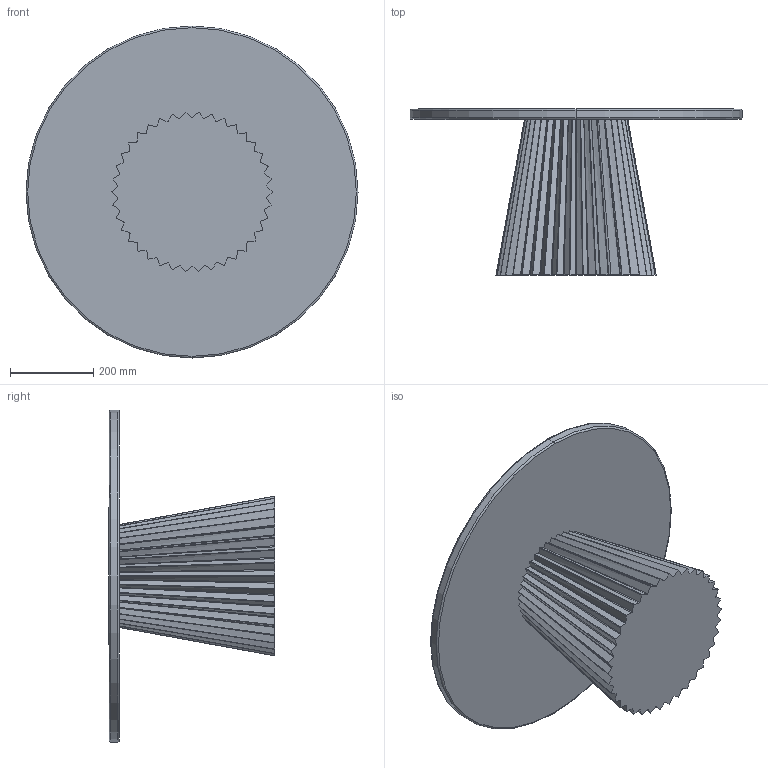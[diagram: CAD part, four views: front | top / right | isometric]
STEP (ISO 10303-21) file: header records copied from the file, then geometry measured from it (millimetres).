
FILE_DESCRIPTION (( 'STEP AP203' ), '1' );
FILE_NAME ('Flute table Coffee (400H x 800D).STEP', '2025-10-21T19:32:12', ( '' ), ( '' ), 'SwSTEP 2.0', 'SolidWorks 2024', '' );
FILE_SCHEMA (( 'CONFIG_CONTROL_DESIGN' ));
Length unit declared in the file: millimetre
Products named in the file (1): Flute table Coffee (400H x 800D)
Bounding box: 800 x 400 x 800 mm (x, y, z)
Volume: 38048095.6 mm3; surface area: 1726763.2 mm2
Topology: 2 solids, 2 shells, 168 faces, 483 edges, 320 vertices
Faces by surface type: bspline 114, cone 39, torus 8, plane 5, cylinder 2
Entity records: 7786 total; most frequent: CARTESIAN_POINT 4076, ORIENTED_EDGE 966, EDGE_CURVE 483, DIRECTION 441, VERTEX_POINT 320, B_SPLINE_CURVE_WITH_KNOTS 240, EDGE_LOOP 169, ADVANCED_FACE 168
